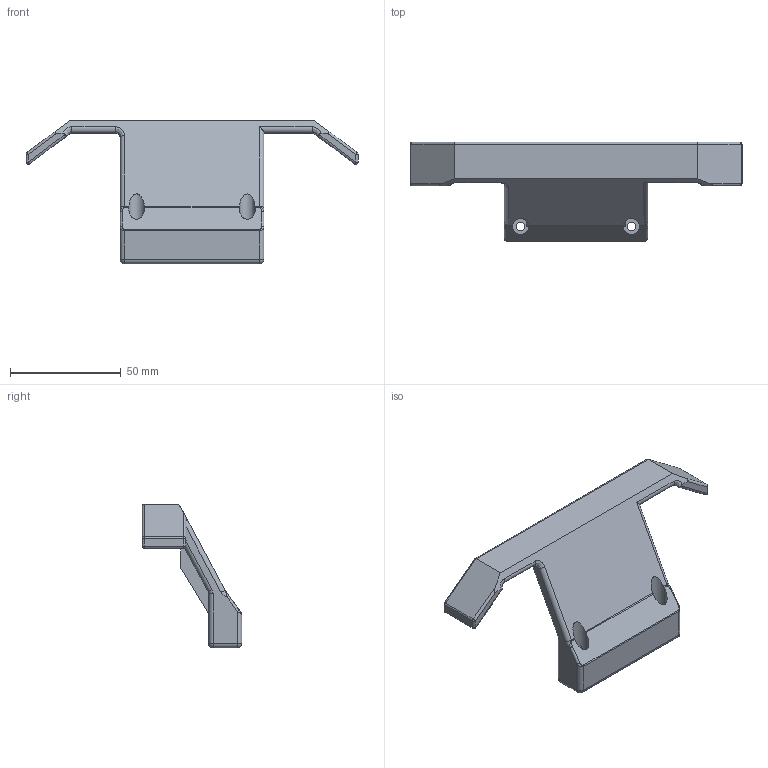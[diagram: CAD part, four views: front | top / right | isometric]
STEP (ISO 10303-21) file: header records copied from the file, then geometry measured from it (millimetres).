
FILE_DESCRIPTION (( 'STEP AP203' ), '1' );
FILE_NAME ('Upgraded Bumper.STEP', '2026-01-17T21:10:55', ( '' ), ( '' ), 'SwSTEP 2.0', 'SolidWorks 2026', '' );
FILE_SCHEMA (( 'CONFIG_CONTROL_DESIGN' ));
Length unit declared in the file: millimetre
Products named in the file (1): Upgraded Bumper
Bounding box: 150 x 45 x 65 mm (x, y, z)
Volume: 56098.2 mm3; surface area: 18888.3 mm2
Topology: 1 solids, 1 shells, 119 faces, 302 edges, 173 vertices
Faces by surface type: cylinder 54, plane 39, sphere 12, bspline 8, torus 6
Entity records: 3874 total; most frequent: CARTESIAN_POINT 1118, ORIENTED_EDGE 580, DIRECTION 551, EDGE_CURVE 290, AXIS2_PLACEMENT_3D 200, VERTEX_POINT 173, LINE 151, VECTOR 151
